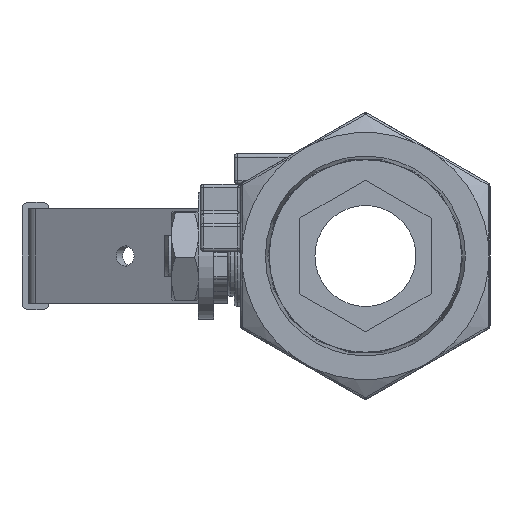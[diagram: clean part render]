
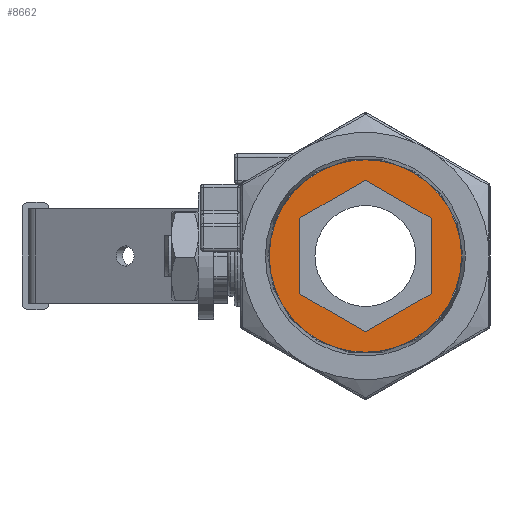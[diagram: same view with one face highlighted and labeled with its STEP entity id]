
A CAD part, left-side view. The second image highlights one B-rep face of the part: STEP entity #8662.
In plain terms, the highlighted planar face has unit normal (-1, 0, 0).
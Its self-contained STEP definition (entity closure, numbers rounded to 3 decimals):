
#8302=CARTESIAN_POINT('',(-18.5,9.75,5.629));
#8303=VERTEX_POINT('',#8302);
#8310=CARTESIAN_POINT('',(-18.5,9.75,-5.629));
#8311=VERTEX_POINT('',#8310);
#8312=CARTESIAN_POINT('',(-18.5,9.75,-5.629));
#8313=DIRECTION('',(0.0,0.0,1.0));
#8314=VECTOR('',#8313,11.258);
#8315=LINE('',#8312,#8314);
#8316=EDGE_CURVE('',#8311,#8303,#8315,.T.);
#8341=CARTESIAN_POINT('',(-18.5,0.,-11.258));
#8342=VERTEX_POINT('',#8341);
#8343=CARTESIAN_POINT('',(-18.5,0.,-11.258));
#8344=DIRECTION('',(0.,0.866,0.5));
#8345=VECTOR('',#8344,11.258);
#8346=LINE('',#8343,#8345);
#8347=EDGE_CURVE('',#8342,#8311,#8346,.T.);
#8372=CARTESIAN_POINT('',(-18.5,-9.75,-5.629));
#8373=VERTEX_POINT('',#8372);
#8374=CARTESIAN_POINT('',(-18.5,-9.75,-5.629));
#8375=DIRECTION('',(0.0,0.866,-0.5));
#8376=VECTOR('',#8375,11.258);
#8377=LINE('',#8374,#8376);
#8378=EDGE_CURVE('',#8373,#8342,#8377,.T.);
#8403=CARTESIAN_POINT('',(-18.5,-9.75,5.629));
#8404=VERTEX_POINT('',#8403);
#8405=CARTESIAN_POINT('',(-18.5,-9.75,5.629));
#8406=DIRECTION('',(0.0,0.0,-1.0));
#8407=VECTOR('',#8406,11.258);
#8408=LINE('',#8405,#8407);
#8409=EDGE_CURVE('',#8404,#8373,#8408,.T.);
#8434=CARTESIAN_POINT('',(-18.5,0.,11.258));
#8435=VERTEX_POINT('',#8434);
#8436=CARTESIAN_POINT('',(-18.5,0.,11.258));
#8437=DIRECTION('',(0.,-0.866,-0.5));
#8438=VECTOR('',#8437,11.258);
#8439=LINE('',#8436,#8438);
#8440=EDGE_CURVE('',#8435,#8404,#8439,.T.);
#8463=CARTESIAN_POINT('',(-18.5,9.75,5.629));
#8464=DIRECTION('',(0.0,-0.866,0.5));
#8465=VECTOR('',#8464,11.258);
#8466=LINE('',#8463,#8465);
#8467=EDGE_CURVE('',#8303,#8435,#8466,.T.);
#8623=CARTESIAN_POINT('',(-18.5,-14.287,0.));
#8624=VERTEX_POINT('',#8623);
#8625=CARTESIAN_POINT('',(-18.5,0.,0.));
#8626=DIRECTION('',(-1.0,0.0,0.0));
#8627=DIRECTION('',(0.0,-1.0,0.0));
#8628=AXIS2_PLACEMENT_3D('',#8625,#8626,#8627);
#8629=CIRCLE('',#8628,14.288);
#8630=EDGE_CURVE('',#8624,#8624,#8629,.T.);
#8646=CARTESIAN_POINT('',(-18.5,0.,0.));
#8647=DIRECTION('',(-1.0,0.0,0.0));
#8648=DIRECTION('',(0.0,-1.0,0.0));
#8649=AXIS2_PLACEMENT_3D('',#8646,#8647,#8648);
#8650=PLANE('',#8649);
#8651=ORIENTED_EDGE('',*,*,#8630,.T.);
#8652=EDGE_LOOP('',(#8651));
#8653=FACE_OUTER_BOUND('',#8652,.T.);
#8654=ORIENTED_EDGE('',*,*,#8316,.T.);
#8655=ORIENTED_EDGE('',*,*,#8467,.T.);
#8656=ORIENTED_EDGE('',*,*,#8440,.T.);
#8657=ORIENTED_EDGE('',*,*,#8409,.T.);
#8658=ORIENTED_EDGE('',*,*,#8378,.T.);
#8659=ORIENTED_EDGE('',*,*,#8347,.T.);
#8660=EDGE_LOOP('',(#8654,#8655,#8656,#8657,#8658,#8659));
#8661=FACE_BOUND('',#8660,.T.);
#8662=ADVANCED_FACE('',(#8653,#8661),#8650,.T.);
